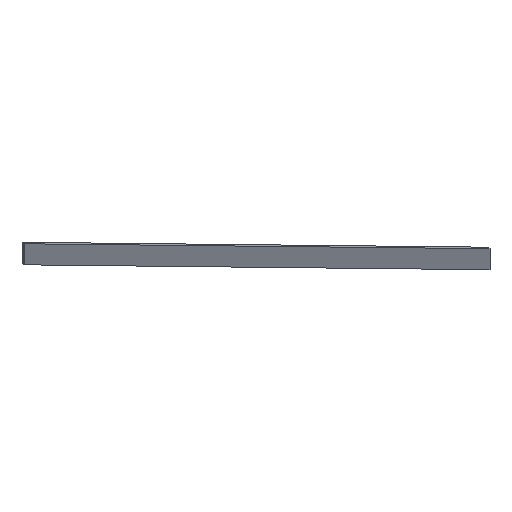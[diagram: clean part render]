
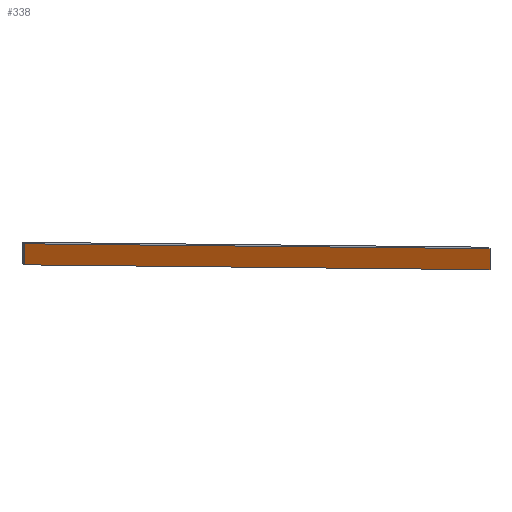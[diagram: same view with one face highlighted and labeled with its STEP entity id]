
A CAD part, isometric view. The second image highlights one B-rep face of the part: STEP entity #338.
In plain terms, the highlighted planar face has unit normal (0, -1, 0).
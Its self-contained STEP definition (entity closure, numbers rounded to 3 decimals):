
#24 = VERTEX_POINT('',#25);
#25 = CARTESIAN_POINT('',(-380.,251.,278.));
#32 = PLANE('',#33);
#33 = AXIS2_PLACEMENT_3D('',#34,#35,#36);
#34 = CARTESIAN_POINT('',(-380.,253.,278.));
#35 = DIRECTION('',(0.454,0.,0.891));
#36 = DIRECTION('',(0.891,0.,-0.454));
#44 = PLANE('',#45);
#45 = AXIS2_PLACEMENT_3D('',#46,#47,#48);
#46 = CARTESIAN_POINT('',(-380.,253.,292.));
#47 = DIRECTION('',(1.,0.,0.));
#48 = DIRECTION('',(0.,0.,-1.));
#56 = EDGE_CURVE('',#24,#57,#59,.T.);
#57 = VERTEX_POINT('',#58);
#58 = CARTESIAN_POINT('',(-22.5,251.,96.));
#59 = SURFACE_CURVE('',#60,(#64,#71),.PCURVE_S1.);
#60 = LINE('',#61,#62);
#61 = CARTESIAN_POINT('',(-380.,251.,278.));
#62 = VECTOR('',#63,1.);
#63 = DIRECTION('',(0.891,0.,-0.454));
#64 = PCURVE('',#32,#65);
#65 = DEFINITIONAL_REPRESENTATION('',(#66),#70);
#66 = LINE('',#67,#68);
#67 = CARTESIAN_POINT('',(0.,-2.));
#68 = VECTOR('',#69,1.);
#69 = DIRECTION('',(1.,0.));
#70 = ( GEOMETRIC_REPRESENTATION_CONTEXT(2) 
PARAMETRIC_REPRESENTATION_CONTEXT() REPRESENTATION_CONTEXT('2D SPACE',''
  ) );
#71 = PCURVE('',#72,#77);
#72 = PLANE('',#73);
#73 = AXIS2_PLACEMENT_3D('',#74,#75,#76);
#74 = CARTESIAN_POINT('',(-201.25,251.,194.));
#75 = DIRECTION('',(-0.,-1.,-0.));
#76 = DIRECTION('',(0.,0.,-1.));
#77 = DEFINITIONAL_REPRESENTATION('',(#78),#82);
#78 = LINE('',#79,#80);
#79 = CARTESIAN_POINT('',(-84.,-178.75));
#80 = VECTOR('',#81,1.);
#81 = DIRECTION('',(0.454,0.891));
#82 = ( GEOMETRIC_REPRESENTATION_CONTEXT(2) 
PARAMETRIC_REPRESENTATION_CONTEXT() REPRESENTATION_CONTEXT('2D SPACE',''
  ) );
#100 = PLANE('',#101);
#101 = AXIS2_PLACEMENT_3D('',#102,#103,#104);
#102 = CARTESIAN_POINT('',(-22.5,253.,96.));
#103 = DIRECTION('',(-1.,0.,0.));
#104 = DIRECTION('',(0.,0.,1.));
#142 = EDGE_CURVE('',#57,#143,#145,.T.);
#143 = VERTEX_POINT('',#144);
#144 = CARTESIAN_POINT('',(-22.5,251.,110.));
#145 = SURFACE_CURVE('',#146,(#150,#157),.PCURVE_S1.);
#146 = LINE('',#147,#148);
#147 = CARTESIAN_POINT('',(-22.5,251.,96.));
#148 = VECTOR('',#149,1.);
#149 = DIRECTION('',(0.,0.,1.));
#150 = PCURVE('',#100,#151);
#151 = DEFINITIONAL_REPRESENTATION('',(#152),#156);
#152 = LINE('',#153,#154);
#153 = CARTESIAN_POINT('',(0.,-2.));
#154 = VECTOR('',#155,1.);
#155 = DIRECTION('',(1.,0.));
#156 = ( GEOMETRIC_REPRESENTATION_CONTEXT(2) 
PARAMETRIC_REPRESENTATION_CONTEXT() REPRESENTATION_CONTEXT('2D SPACE',''
  ) );
#157 = PCURVE('',#72,#158);
#158 = DEFINITIONAL_REPRESENTATION('',(#159),#163);
#159 = LINE('',#160,#161);
#160 = CARTESIAN_POINT('',(98.,178.75));
#161 = VECTOR('',#162,1.);
#162 = DIRECTION('',(-1.,0.));
#163 = ( GEOMETRIC_REPRESENTATION_CONTEXT(2) 
PARAMETRIC_REPRESENTATION_CONTEXT() REPRESENTATION_CONTEXT('2D SPACE',''
  ) );
#181 = PLANE('',#182);
#182 = AXIS2_PLACEMENT_3D('',#183,#184,#185);
#183 = CARTESIAN_POINT('',(-22.5,253.,110.));
#184 = DIRECTION('',(-0.454,-0.,-0.891));
#185 = DIRECTION('',(-0.891,0.,0.454));
#218 = EDGE_CURVE('',#143,#219,#221,.T.);
#219 = VERTEX_POINT('',#220);
#220 = CARTESIAN_POINT('',(-380.,251.,292.));
#221 = SURFACE_CURVE('',#222,(#226,#233),.PCURVE_S1.);
#222 = LINE('',#223,#224);
#223 = CARTESIAN_POINT('',(-22.5,251.,110.));
#224 = VECTOR('',#225,1.);
#225 = DIRECTION('',(-0.891,0.,0.454));
#226 = PCURVE('',#181,#227);
#227 = DEFINITIONAL_REPRESENTATION('',(#228),#232);
#228 = LINE('',#229,#230);
#229 = CARTESIAN_POINT('',(0.,-2.));
#230 = VECTOR('',#231,1.);
#231 = DIRECTION('',(1.,0.));
#232 = ( GEOMETRIC_REPRESENTATION_CONTEXT(2) 
PARAMETRIC_REPRESENTATION_CONTEXT() REPRESENTATION_CONTEXT('2D SPACE',''
  ) );
#233 = PCURVE('',#72,#234);
#234 = DEFINITIONAL_REPRESENTATION('',(#235),#239);
#235 = LINE('',#236,#237);
#236 = CARTESIAN_POINT('',(84.,178.75));
#237 = VECTOR('',#238,1.);
#238 = DIRECTION('',(-0.454,-0.891));
#239 = ( GEOMETRIC_REPRESENTATION_CONTEXT(2) 
PARAMETRIC_REPRESENTATION_CONTEXT() REPRESENTATION_CONTEXT('2D SPACE',''
  ) );
#289 = EDGE_CURVE('',#219,#24,#290,.T.);
#290 = SURFACE_CURVE('',#291,(#295,#302),.PCURVE_S1.);
#291 = LINE('',#292,#293);
#292 = CARTESIAN_POINT('',(-380.,251.,292.));
#293 = VECTOR('',#294,1.);
#294 = DIRECTION('',(0.,0.,-1.));
#295 = PCURVE('',#44,#296);
#296 = DEFINITIONAL_REPRESENTATION('',(#297),#301);
#297 = LINE('',#298,#299);
#298 = CARTESIAN_POINT('',(0.,-2.));
#299 = VECTOR('',#300,1.);
#300 = DIRECTION('',(1.,0.));
#301 = ( GEOMETRIC_REPRESENTATION_CONTEXT(2) 
PARAMETRIC_REPRESENTATION_CONTEXT() REPRESENTATION_CONTEXT('2D SPACE',''
  ) );
#302 = PCURVE('',#72,#303);
#303 = DEFINITIONAL_REPRESENTATION('',(#304),#308);
#304 = LINE('',#305,#306);
#305 = CARTESIAN_POINT('',(-98.,-178.75));
#306 = VECTOR('',#307,1.);
#307 = DIRECTION('',(1.,0.));
#308 = ( GEOMETRIC_REPRESENTATION_CONTEXT(2) 
PARAMETRIC_REPRESENTATION_CONTEXT() REPRESENTATION_CONTEXT('2D SPACE',''
  ) );
#338 = ADVANCED_FACE('',(#339),#72,.T.);
#339 = FACE_BOUND('',#340,.T.);
#340 = EDGE_LOOP('',(#341,#342,#343,#344));
#341 = ORIENTED_EDGE('',*,*,#56,.T.);
#342 = ORIENTED_EDGE('',*,*,#142,.T.);
#343 = ORIENTED_EDGE('',*,*,#218,.T.);
#344 = ORIENTED_EDGE('',*,*,#289,.T.);
